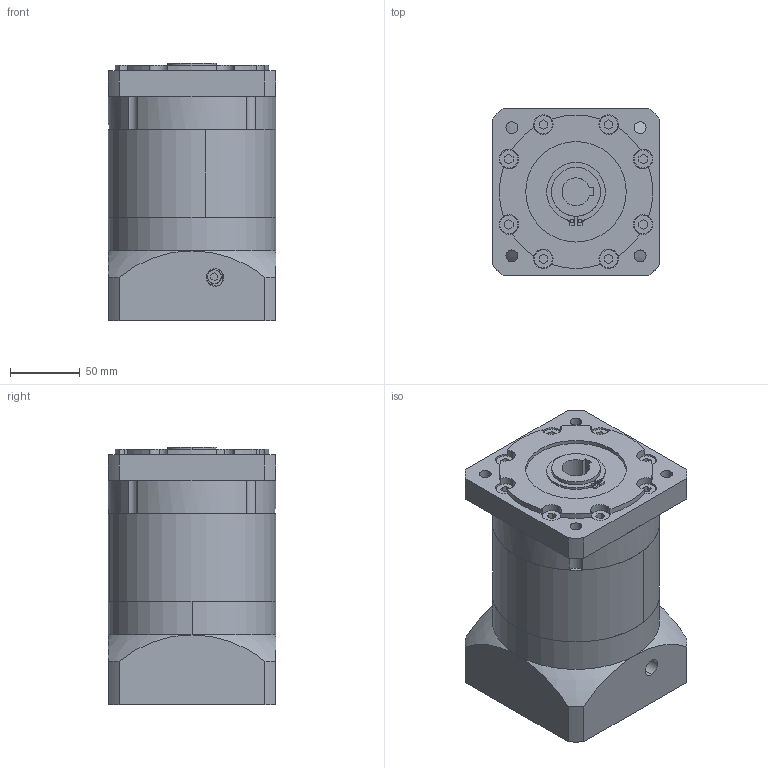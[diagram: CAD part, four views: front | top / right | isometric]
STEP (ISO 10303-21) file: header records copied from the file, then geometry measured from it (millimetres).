
FILE_DESCRIPTION (( 'STEP AP203' ), '1' );
FILE_NAME ('PBF120-L2-19-95-130.STEP', '2022-07-21T09:40:45', ( 'Windows User' ), ( 'P R C' ), 'SwSTEP 2.0', 'SolidWorks 2016', '' );
FILE_SCHEMA (( 'CONFIG_CONTROL_DESIGN' ));
Length unit declared in the file: millimetre
Products named in the file (7): 囀鞠褒蹟佪 M6x20; PBF120 蟀諉啣-95-M8-130-LR57; PBF120 內齿圈-优化_二级内齿圈; PBF120 奻屳唳-謂怀堤-20-B6; PBF120 狟屳唳-19; 粣創-6007 40x68x15; PBF120-L2-19-95-130
Assembly tree (6 placements, depth 2):
  PBF120-L2-19-95-130
    囀鞠褒蹟佪 M6x20
    PBF120 蟀諉啣-95-M8-130-LR57
    PBF120 內齿圈-优化_二级内齿圈
    PBF120 奻屳唳-謂怀堤-20-B6
    PBF120 狟屳唳-19
    粣創-6007 40x68x15
Bounding box: 120 x 120 x 184.5 mm (x, y, z)
Volume: 2020479 mm3; surface area: 245377.1 mm2
Topology: 6 solids, 14 shells, 1116 faces, 3002 edges, 1983 vertices
Faces by surface type: plane 590, cylinder 212, bspline 158, sphere 94, torus 52, cone 10
Entity records: 46505 total; most frequent: CARTESIAN_POINT 18825, ORIENTED_EDGE 5976, DIRECTION 5024, EDGE_CURVE 2988, VERTEX_POINT 1979, AXIS2_PLACEMENT_3D 1773, VECTOR 1478, LINE 1478
